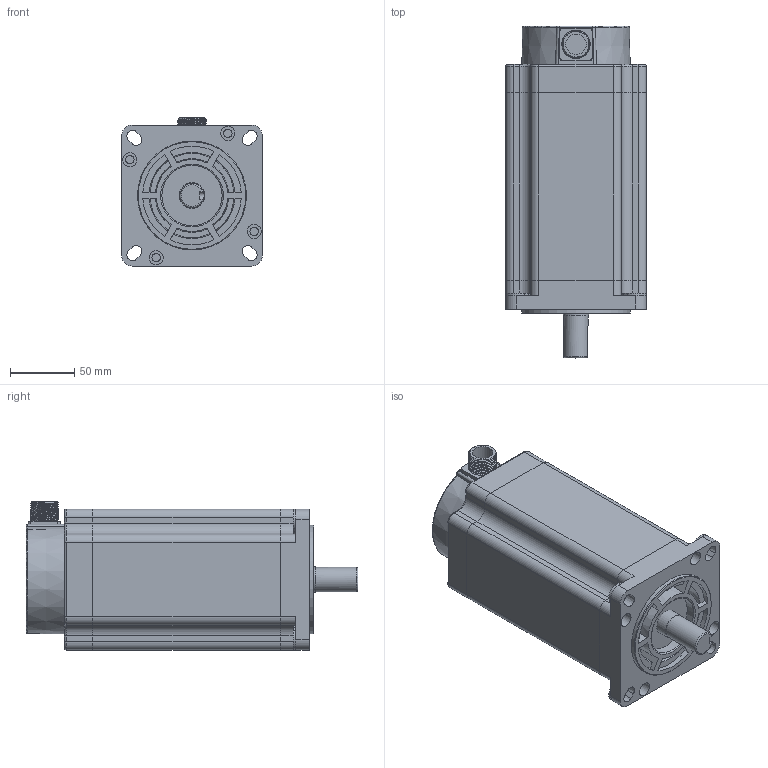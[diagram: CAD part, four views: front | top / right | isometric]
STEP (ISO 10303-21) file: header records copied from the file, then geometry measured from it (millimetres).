
FILE_DESCRIPTION(/* description */ (''),/* implementation_level */ '2;1');
FILE_NAME(/* name */ '110BYG350D(止口φ85).stp',/* time_stamp */ '2024-08-15T16:38:54+08:00',/* author */ (''),/* organization */ (''),/* preprocessor_version */ 'ST-DEVELOPER v18.1',/* originating_system */ 'SIEMENS PLM Software NX 2000',/* authorisation */ '');
FILE_SCHEMA (('AUTOMOTIVE_DESIGN { 1 0 10303 214 3 1 1 1 }'));
Length unit declared in the file: millimetre
Products named in the file (1): 925032A4A3696syq
Bounding box: 110 x 259 x 115.5 mm (x, y, z)
Volume: 2181119.8 mm3; surface area: 184448.6 mm2
Topology: 5 solids, 5 shells, 292 faces, 733 edges, 477 vertices
Faces by surface type: plane 131, cylinder 118, cone 24, torus 15, bspline 4
Full cylindrical faces by diameter (mm): 3 x4, 6 x4, 6.5 x8, 11 x4, 16 x1, 19 x1, 19.7 x1, 20 x2, 47 x1, 85 x1
Entity records: 11050 total; most frequent: CARTESIAN_POINT 4002, DIRECTION 1508, ORIENTED_EDGE 1374, EDGE_CURVE 687, AXIS2_PLACEMENT_3D 573, VERTEX_POINT 462, EDGE_LOOP 371, LINE 362
